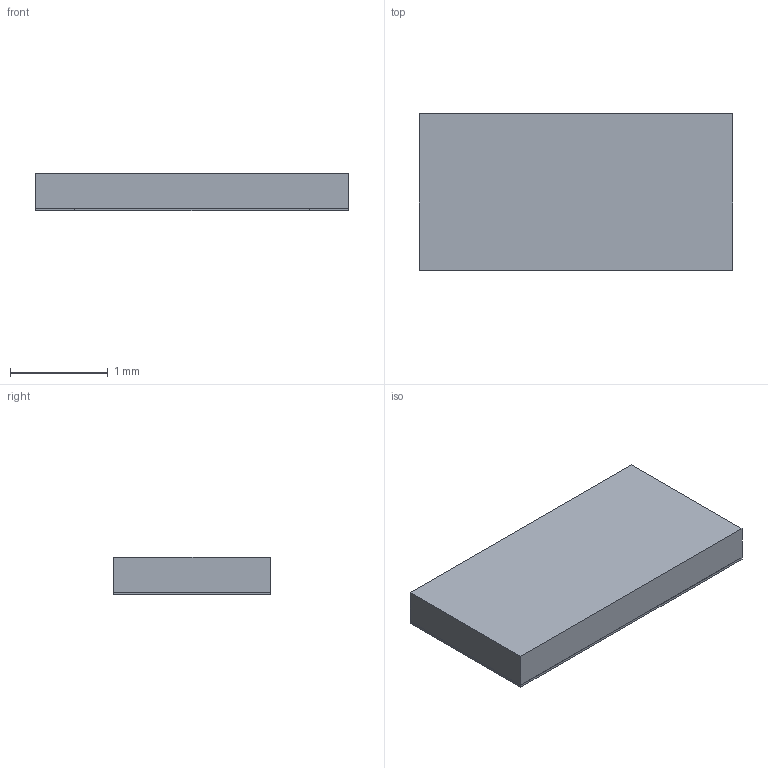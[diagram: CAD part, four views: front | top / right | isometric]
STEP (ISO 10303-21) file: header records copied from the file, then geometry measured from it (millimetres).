
FILE_DESCRIPTION(('STEP AP203'), '1');
FILE_NAME('栖闉罻', '', ('UNSPECIFIED'), ('UNSPECIFIED'), 'ASCON STEP Converter 1.6', 'ASCON Math Kernel', '');
FILE_SCHEMA(('CONFIG_CONTROL_DESIGN'));
Length unit declared in the file: millimetre
Assembly tree (1 placements, depth 2):
  (unnamed)
    (unnamed)
Bounding box: 3.2 x 1.6 x 0.39 mm (x, y, z)
Volume: 2 mm3; surface area: 24.5 mm2
Topology: 4 solids, 5 shells, 43 faces, 99 edges, 66 vertices
Faces by surface type: plane 39, cylinder 4
Entity records: 1659 total; most frequent: CARTESIAN_POINT 210, ORIENTED_EDGE 198, DIRECTION 197, EDGE_CURVE 99, LINE 91, VECTOR 91, VERTEX_POINT 66, AXIS2_PLACEMENT_3D 53
